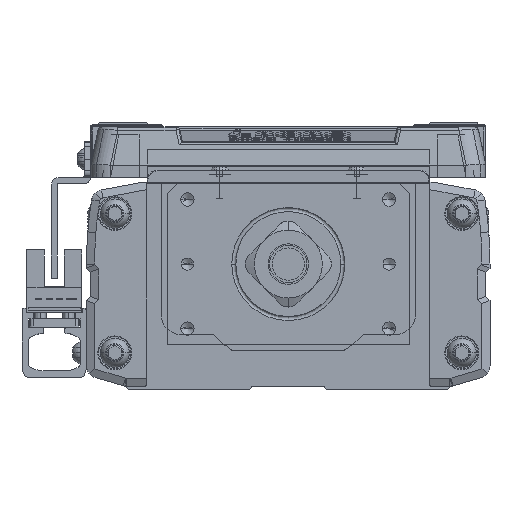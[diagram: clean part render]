
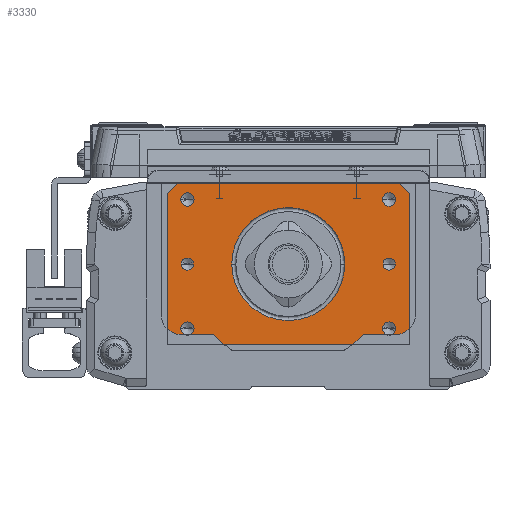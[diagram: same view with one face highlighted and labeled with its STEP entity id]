
A CAD part, left-side view. The second image highlights one B-rep face of the part: STEP entity #3330.
In plain terms, the highlighted planar face has unit normal (-1, 0, 0).
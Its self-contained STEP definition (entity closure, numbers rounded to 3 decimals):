
#3330=ADVANCED_FACE('',(#8696,#8697,#8698,#8699,#8700,#8701,#8702,#8703),#8704,.T.);
#8696=FACE_BOUND('',#16759,.T.);
#8697=FACE_BOUND('',#16760,.T.);
#8698=FACE_BOUND('',#16761,.T.);
#8699=FACE_BOUND('',#16762,.T.);
#8700=FACE_BOUND('',#16763,.T.);
#8701=FACE_BOUND('',#16764,.T.);
#8702=FACE_BOUND('',#16765,.T.);
#8703=FACE_OUTER_BOUND('',#16766,.T.);
#8704=PLANE('',#16767);
#16759=EDGE_LOOP('',(#25904,#25905));
#16760=EDGE_LOOP('',(#25906,#25907));
#16761=EDGE_LOOP('',(#25908,#25909));
#16762=EDGE_LOOP('',(#25910,#25911));
#16763=EDGE_LOOP('',(#25912,#25913));
#16764=EDGE_LOOP('',(#25914,#25915));
#16765=EDGE_LOOP('',(#25916,#25917,#25918));
#16766=EDGE_LOOP('',(#25919,#25920,#25921,#25922,#25923,#25924));
#16767=AXIS2_PLACEMENT_3D('',#25925,#25926,#25927);
#25904=ORIENTED_EDGE('',*,*,#47848,.T.);
#25905=ORIENTED_EDGE('',*,*,#47849,.T.);
#25906=ORIENTED_EDGE('',*,*,#47850,.T.);
#25907=ORIENTED_EDGE('',*,*,#46915,.T.);
#25908=ORIENTED_EDGE('',*,*,#47851,.T.);
#25909=ORIENTED_EDGE('',*,*,#47852,.T.);
#25910=ORIENTED_EDGE('',*,*,#47024,.T.);
#25911=ORIENTED_EDGE('',*,*,#46955,.T.);
#25912=ORIENTED_EDGE('',*,*,#47853,.T.);
#25913=ORIENTED_EDGE('',*,*,#47854,.T.);
#25914=ORIENTED_EDGE('',*,*,#47855,.T.);
#25915=ORIENTED_EDGE('',*,*,#47856,.T.);
#25916=ORIENTED_EDGE('',*,*,#47857,.T.);
#25917=ORIENTED_EDGE('',*,*,#47858,.T.);
#25918=ORIENTED_EDGE('',*,*,#47859,.T.);
#25919=ORIENTED_EDGE('',*,*,#47860,.F.);
#25920=ORIENTED_EDGE('',*,*,#47861,.F.);
#25921=ORIENTED_EDGE('',*,*,#47862,.T.);
#25922=ORIENTED_EDGE('',*,*,#47863,.T.);
#25923=ORIENTED_EDGE('',*,*,#47864,.F.);
#25924=ORIENTED_EDGE('',*,*,#46933,.T.);
#25925=CARTESIAN_POINT('',(-580.,0.,-20.));
#25926=DIRECTION('',(-1.0,0.,0.));
#25927=DIRECTION('',(0.,-1.0,0.));
#46915=EDGE_CURVE('',#55806,#55803,#55807,.T.);
#46933=EDGE_CURVE('',#55839,#55836,#55840,.T.);
#46955=EDGE_CURVE('',#55877,#55874,#55878,.T.);
#47024=EDGE_CURVE('',#55874,#55877,#55998,.T.);
#47848=EDGE_CURVE('',#57456,#57457,#57458,.T.);
#47849=EDGE_CURVE('',#57457,#57456,#57459,.T.);
#47850=EDGE_CURVE('',#55803,#55806,#57460,.T.);
#47851=EDGE_CURVE('',#57461,#57462,#57463,.T.);
#47852=EDGE_CURVE('',#57462,#57461,#57464,.T.);
#47853=EDGE_CURVE('',#57465,#57466,#57467,.T.);
#47854=EDGE_CURVE('',#57466,#57465,#57468,.T.);
#47855=EDGE_CURVE('',#57469,#57470,#57471,.T.);
#47856=EDGE_CURVE('',#57470,#57469,#57472,.T.);
#47857=EDGE_CURVE('',#57473,#57474,#57475,.T.);
#47858=EDGE_CURVE('',#57474,#57476,#57477,.T.);
#47859=EDGE_CURVE('',#57476,#57473,#57478,.T.);
#47860=EDGE_CURVE('',#57479,#55836,#57480,.T.);
#47861=EDGE_CURVE('',#57481,#57479,#57482,.T.);
#47862=EDGE_CURVE('',#57481,#57483,#57484,.T.);
#47863=EDGE_CURVE('',#57483,#57485,#57486,.T.);
#47864=EDGE_CURVE('',#55839,#57485,#57487,.T.);
#55803=VERTEX_POINT('',#68830);
#55806=VERTEX_POINT('',#68834);
#55807=CIRCLE('',#68835,1.5);
#55836=VERTEX_POINT('',#68867);
#55839=VERTEX_POINT('',#68871);
#55840=LINE('',#68872,#68873);
#55874=VERTEX_POINT('',#68915);
#55877=VERTEX_POINT('',#68919);
#55878=CIRCLE('',#68920,1.65);
#55998=CIRCLE('',#69089,1.65);
#57456=VERTEX_POINT('',#71129);
#57457=VERTEX_POINT('',#71130);
#57458=CIRCLE('',#71131,1.5);
#57459=CIRCLE('',#71132,1.5);
#57460=CIRCLE('',#71133,1.5);
#57461=VERTEX_POINT('',#71134);
#57462=VERTEX_POINT('',#71135);
#57463=CIRCLE('',#71136,1.65);
#57464=CIRCLE('',#71137,1.65);
#57465=VERTEX_POINT('',#71138);
#57466=VERTEX_POINT('',#71139);
#57467=CIRCLE('',#71140,1.65);
#57468=CIRCLE('',#71141,1.65);
#57469=VERTEX_POINT('',#71142);
#57470=VERTEX_POINT('',#71143);
#57471=CIRCLE('',#71144,1.65);
#57472=CIRCLE('',#71145,1.65);
#57473=VERTEX_POINT('',#71146);
#57474=VERTEX_POINT('',#71147);
#57475=CIRCLE('',#71148,14.0);
#57476=VERTEX_POINT('',#71149);
#57477=CIRCLE('',#71150,14.0);
#57478=CIRCLE('',#71151,14.0);
#57479=VERTEX_POINT('',#71152);
#57480=LINE('',#71153,#71154);
#57481=VERTEX_POINT('',#71155);
#57482=LINE('',#71156,#71157);
#57483=VERTEX_POINT('',#71158);
#57484=LINE('',#71159,#71160);
#57485=VERTEX_POINT('',#71161);
#57486=LINE('',#71162,#71163);
#57487=LINE('',#71164,#71165);
#68830=CARTESIAN_POINT('',(-580.,26.5,0.));
#68834=CARTESIAN_POINT('',(-580.,23.5,0.));
#68835=AXIS2_PLACEMENT_3D('',#87007,#87008,#87009);
#68867=CARTESIAN_POINT('',(-580.,27.5,20.));
#68871=CARTESIAN_POINT('',(-580.,-27.5,20.));
#68872=CARTESIAN_POINT('',(-580.,30.,20.));
#68873=VECTOR('',#87044,10.0);
#68915=CARTESIAN_POINT('',(-580.,26.65,-16.));
#68919=CARTESIAN_POINT('',(-580.,23.35,-16.));
#68920=AXIS2_PLACEMENT_3D('',#87075,#87076,#87077);
#69089=AXIS2_PLACEMENT_3D('',#87190,#87191,#87192);
#71129=CARTESIAN_POINT('',(-580.,-26.5,0.));
#71130=CARTESIAN_POINT('',(-580.,-23.5,0.));
#71131=AXIS2_PLACEMENT_3D('',#88272,#88273,#88274);
#71132=AXIS2_PLACEMENT_3D('',#88275,#88276,#88277);
#71133=AXIS2_PLACEMENT_3D('',#88278,#88279,#88280);
#71134=CARTESIAN_POINT('',(-580.,-26.65,-16.));
#71135=CARTESIAN_POINT('',(-580.,-23.35,-16.));
#71136=AXIS2_PLACEMENT_3D('',#88281,#88282,#88283);
#71137=AXIS2_PLACEMENT_3D('',#88284,#88285,#88286);
#71138=CARTESIAN_POINT('',(-580.,26.65,16.));
#71139=CARTESIAN_POINT('',(-580.,23.35,16.));
#71140=AXIS2_PLACEMENT_3D('',#88287,#88288,#88289);
#71141=AXIS2_PLACEMENT_3D('',#88290,#88291,#88292);
#71142=CARTESIAN_POINT('',(-580.,-26.65,16.));
#71143=CARTESIAN_POINT('',(-580.,-23.35,16.));
#71144=AXIS2_PLACEMENT_3D('',#88293,#88294,#88295);
#71145=AXIS2_PLACEMENT_3D('',#88296,#88297,#88298);
#71146=CARTESIAN_POINT('',(-580.,0.,-14.));
#71147=CARTESIAN_POINT('',(-580.,14.,0.));
#71148=AXIS2_PLACEMENT_3D('',#88299,#88300,#88301);
#71149=CARTESIAN_POINT('',(-580.,-14.,0.));
#71150=AXIS2_PLACEMENT_3D('',#88302,#88303,#88304);
#71151=AXIS2_PLACEMENT_3D('',#88305,#88306,#88307);
#71152=CARTESIAN_POINT('',(-580.,30.,17.5));
#71153=CARTESIAN_POINT('',(-580.,31.25,16.25));
#71154=VECTOR('',#88308,10.);
#71155=CARTESIAN_POINT('',(-580.,30.,-20.));
#71156=CARTESIAN_POINT('',(-580.,30.,-20.));
#71157=VECTOR('',#88309,10.0);
#71158=CARTESIAN_POINT('',(-580.,-30.,-20.));
#71159=CARTESIAN_POINT('',(-580.,30.,-20.));
#71160=VECTOR('',#88310,10.0);
#71161=CARTESIAN_POINT('',(-580.,-30.,17.5));
#71162=CARTESIAN_POINT('',(-580.,-30.,-20.));
#71163=VECTOR('',#88311,10.0);
#71164=CARTESIAN_POINT('',(-580.,-31.25,16.25));
#71165=VECTOR('',#88312,10.);
#87007=CARTESIAN_POINT('',(-580.,25.,0.));
#87008=DIRECTION('',(1.0,0.,0.));
#87009=DIRECTION('',(0.,1.0,0.));
#87044=DIRECTION('',(0.,1.0,0.));
#87075=CARTESIAN_POINT('',(-580.,25.,-16.));
#87076=DIRECTION('',(1.0,0.,0.));
#87077=DIRECTION('',(0.,1.0,0.));
#87190=CARTESIAN_POINT('',(-580.,25.,-16.));
#87191=DIRECTION('',(1.0,0.,0.));
#87192=DIRECTION('',(0.,1.0,0.));
#88272=CARTESIAN_POINT('',(-580.,-25.,0.));
#88273=DIRECTION('',(1.0,0.,0.));
#88274=DIRECTION('',(0.,-1.0,0.));
#88275=CARTESIAN_POINT('',(-580.,-25.,0.));
#88276=DIRECTION('',(1.0,0.,0.));
#88277=DIRECTION('',(0.,-1.0,0.));
#88278=CARTESIAN_POINT('',(-580.,25.,0.));
#88279=DIRECTION('',(1.0,0.,0.));
#88280=DIRECTION('',(0.,1.0,0.));
#88281=CARTESIAN_POINT('',(-580.,-25.,-16.));
#88282=DIRECTION('',(1.0,0.,0.));
#88283=DIRECTION('',(0.,-1.0,0.));
#88284=CARTESIAN_POINT('',(-580.,-25.,-16.));
#88285=DIRECTION('',(1.0,0.,0.));
#88286=DIRECTION('',(0.,-1.0,0.));
#88287=CARTESIAN_POINT('',(-580.,25.,16.));
#88288=DIRECTION('',(1.0,0.,0.));
#88289=DIRECTION('',(0.,1.0,0.));
#88290=CARTESIAN_POINT('',(-580.,25.,16.));
#88291=DIRECTION('',(1.0,0.,0.));
#88292=DIRECTION('',(0.,1.0,0.));
#88293=CARTESIAN_POINT('',(-580.,-25.,16.));
#88294=DIRECTION('',(1.0,0.,0.));
#88295=DIRECTION('',(0.,-1.0,0.));
#88296=CARTESIAN_POINT('',(-580.,-25.,16.));
#88297=DIRECTION('',(1.0,0.,0.));
#88298=DIRECTION('',(0.,-1.0,0.));
#88299=CARTESIAN_POINT('',(-580.,0.,0.));
#88300=DIRECTION('',(1.0,0.,0.));
#88301=DIRECTION('',(0.,0.,1.0));
#88302=CARTESIAN_POINT('',(-580.,0.,0.));
#88303=DIRECTION('',(1.0,0.,0.));
#88304=DIRECTION('',(0.,0.,1.0));
#88305=CARTESIAN_POINT('',(-580.,0.,0.));
#88306=DIRECTION('',(1.0,0.,0.));
#88307=DIRECTION('',(0.,0.,1.0));
#88308=DIRECTION('',(0.,-0.707,0.707));
#88309=DIRECTION('',(0.,0.,1.0));
#88310=DIRECTION('',(0.,-1.0,0.));
#88311=DIRECTION('',(0.,0.,1.0));
#88312=DIRECTION('',(0.0,-0.707,-0.707));
